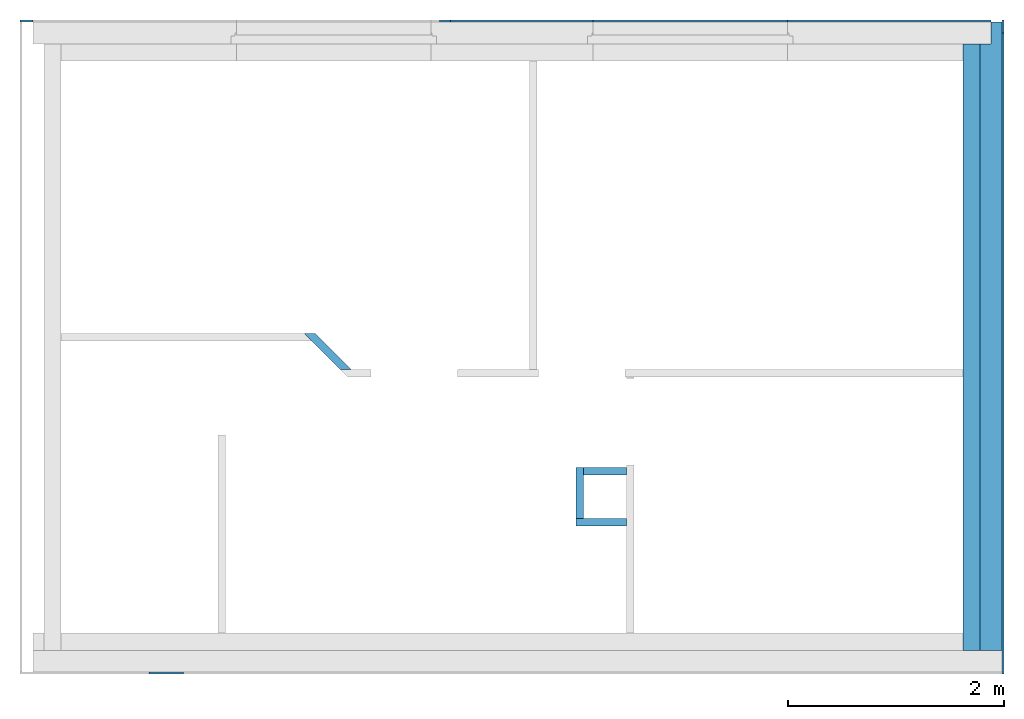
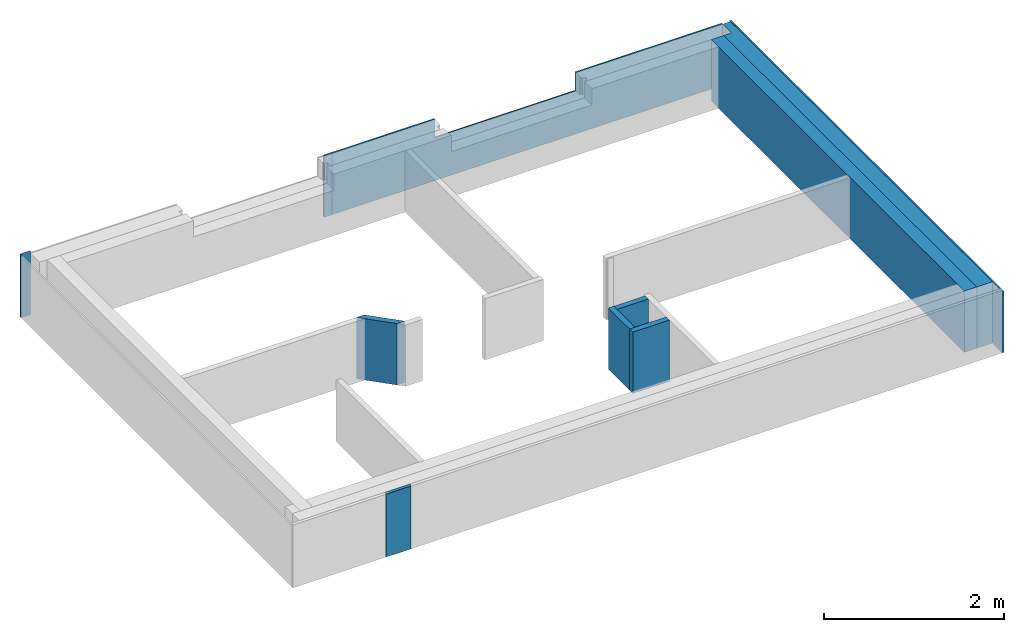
# One storey, part 2 of 2: 12 walls, 6 openings.
"""IFC2X3 building model written with IfcOpenShell, lengths in centimetres."""

from ifc_helpers import new_model, entity, si_unit, converted_unit, derived_unit, direction, frame, frame_2d, origin, place, context, subcontext, project, spatial, polyline, rectangle, outline, extrude, clip, halfspace, bounded_halfspace, faceted_brep, material, layer, layer_set, layer_usage, type_object, element, save


model = new_model("IFC2X3")

# Units and contexts
model_context = context("Model", 3, precision=0.001, world=origin(), true_north=direction((6.12303176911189e-17, 1.0)))
body_context = subcontext(model_context, "Body", "Model", "MODEL_VIEW")
ifc_project = project(units=[si_unit("LENGTHUNIT", "METRE", prefix="CENTI"), si_unit("AREAUNIT", "SQUARE_METRE"), si_unit("VOLUMEUNIT", "CUBIC_METRE"), converted_unit("PLANEANGLEUNIT", "DEGREE", entity("IfcRatioMeasure", 0.0174532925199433), si_unit("PLANEANGLEUNIT", "RADIAN"), dimensions=[0, 0, 0, 0, 0, 0, 0]), si_unit("MASSUNIT", "GRAM", prefix="KILO"), derived_unit("MASSDENSITYUNIT", [(si_unit("MASSUNIT", "GRAM", prefix="KILO"), 1), (si_unit("LENGTHUNIT", "METRE"), -3)]), derived_unit("MOMENTOFINERTIAUNIT", [(si_unit("LENGTHUNIT", "METRE"), 4)]), si_unit("TIMEUNIT", "SECOND"), si_unit("FREQUENCYUNIT", "HERTZ"), si_unit("THERMODYNAMICTEMPERATUREUNIT", "DEGREE_CELSIUS"), derived_unit("THERMALTRANSMITTANCEUNIT", [(si_unit("MASSUNIT", "GRAM", prefix="KILO"), 1), (si_unit("THERMODYNAMICTEMPERATUREUNIT", "KELVIN"), -1), (si_unit("TIMEUNIT", "SECOND"), -3)]), derived_unit("VOLUMETRICFLOWRATEUNIT", [(si_unit("LENGTHUNIT", "METRE"), 3), (si_unit("TIMEUNIT", "SECOND"), -1)]), si_unit("ELECTRICCURRENTUNIT", "AMPERE"), si_unit("ELECTRICVOLTAGEUNIT", "VOLT"), si_unit("POWERUNIT", "WATT"), si_unit("FORCEUNIT", "NEWTON", prefix="KILO"), si_unit("ILLUMINANCEUNIT", "LUX"), si_unit("LUMINOUSFLUXUNIT", "LUMEN"), si_unit("LUMINOUSINTENSITYUNIT", "CANDELA"), derived_unit("USERDEFINED", [(si_unit("MASSUNIT", "GRAM", prefix="KILO"), -1), (si_unit("LENGTHUNIT", "METRE"), -2), (si_unit("TIMEUNIT", "SECOND"), 3), (si_unit("LUMINOUSFLUXUNIT", "LUMEN"), 1)]), derived_unit("LINEARVELOCITYUNIT", [(si_unit("LENGTHUNIT", "METRE"), 1), (si_unit("TIMEUNIT", "SECOND"), -1)]), si_unit("PRESSUREUNIT", "PASCAL"), derived_unit("USERDEFINED", [(si_unit("LENGTHUNIT", "METRE"), -2), (si_unit("MASSUNIT", "GRAM", prefix="KILO"), 1), (si_unit("TIMEUNIT", "SECOND"), -2)]), derived_unit("LINEARFORCEUNIT", [(si_unit("MASSUNIT", "GRAM", prefix="KILO"), 1), (si_unit("LENGTHUNIT", "METRE"), 1), (si_unit("TIMEUNIT", "SECOND"), -2), (si_unit("LENGTHUNIT", "METRE"), -1)]), derived_unit("PLANARFORCEUNIT", [(si_unit("MASSUNIT", "GRAM", prefix="KILO"), 1), (si_unit("LENGTHUNIT", "METRE"), 1), (si_unit("TIMEUNIT", "SECOND"), -2), (si_unit("LENGTHUNIT", "METRE"), -2)])], contexts=[model_context])

# Site, building, storey
site_placement = place(None, origin())
site = spatial("IfcSite", under=ifc_project, at=site_placement, Name="Surface", CompositionType="ELEMENT")
building_placement = place(site_placement, origin())
building = spatial("IfcBuilding", under=site, at=building_placement, CompositionType="ELEMENT")
storey_placement = place(building_placement, frame((0.0, 0.0, 282.0)))
storey = spatial("IfcBuildingStorey", under=building, at=storey_placement, Name="2.82_Arase acrotère", CompositionType="ELEMENT", Elevation=282.0)

# Wall
ifc_material_1 = material(Name="Maçonnerie - Béton")
ifc_layer_1 = layer(ifc_material_1, 20.0)
ifc_layer_set_1 = layer_set([ifc_layer_1], Name="Mur de base:Mur 20")
ifc_layer_usage_1 = layer_usage(ifc_layer_set_1, "AXIS2", "NEGATIVE", 10.0)
wall_type_1 = type_object("IfcWallType", Name="Mur de base:Mur 20", PredefinedType="STANDARD", material=ifc_layer_set_1)
wall_1_placement = place(storey_placement, frame((-892.177260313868, 721.992317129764, 0.0), z_axis=(0.0, 0.0, 1.0), x_axis=(0.0, -1.0, 0.0)))
element("IfcWallStandardCase", 1, at=wall_1_placement, inside=storey, type_object=wall_type_1, material=ifc_layer_usage_1, Name="Mur de base:Mur 20", ObjectType="Mur de base:Mur 20", context=body_context, shape_type="Clipping", body=[
    clip(extrude(outline(polyline([(581.0, -10.0), (581.0, 10.0), (0.0, 10.0), (0.0, 0.0), (20.0, 0.0), (20.0, -10.0), (581.0, -10.0)])), origin(), (0.0, 0.0, 1.0), 83.0), halfspace(frame((0.0, 0.0, -25.0)), True)),
])

# Wall, openings
ifc_material_2 = material(Name="Maçonnerie - Enduit")
ifc_layer_2 = layer(ifc_material_2, 2.0)
ifc_layer_set_2 = layer_set([ifc_layer_2], Name="Mur de base:Enduit 2")
ifc_layer_usage_2 = layer_usage(ifc_layer_set_2, "AXIS2", "POSITIVE", -1.0)
wall_type_2 = type_object("IfcWallType", Name="Mur de base:Enduit 2", PredefinedType="STANDARD", material=ifc_layer_set_2)
wall_2_placement = place(storey_placement, frame((-882.177260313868, 722.992317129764, 0.0), z_axis=(0.0, 0.0, 1.0), x_axis=(-1.0, 0.0, 0.0)))
wall_2 = element("IfcWallStandardCase", 2, at=wall_2_placement, inside=storey, type_object=wall_type_2, material=ifc_layer_usage_2, Name="Mur de base:Enduit 2", ObjectType="Mur de base:Enduit 2", context=body_context, shape_type="Clipping", body=[
    clip(extrude(rectangle(XDim=500.000000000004, YDim=1.99999999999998, at=frame_2d((260.000000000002, 2.48134846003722e-14), x_axis=(-1.0, 0.0))), origin(), (0.0, 0.0, 1.0), 83.0), halfspace(frame((0.0, 0.0, -290.0)), True)),
])
opening_1_placement = place(wall_2_placement, frame((383.0, 61.0, 54.0345797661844)))
element("IfcOpeningElement", 3, at=opening_1_placement, cuts=wall_2, Name="Mur de base:Enduit 2", ObjectType="Opening", context=body_context, shape_type="Brep", body=[
    faceted_brep([(-5.0, -48.0, 6.96542023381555), (-5.0, -50.0, 6.96542023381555), (-5.0, -50.0, 86.9654202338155), (-5.0, -100.0, 86.9654202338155), (-5.0, -100.0, 0.0), (-5.0, -48.0, 5.46542023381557), (-185.0, 0.0, 6.96542023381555), (-185.0, -40.0, 6.96542023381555), (-185.0, -40.0, 86.9654202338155), (-185.0, 0.0, 86.9654202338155), (-5.0, 0.0, 6.96542023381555), (-5.0, -40.0, 6.96542023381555), (0.0, -40.0, 6.96542023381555), (0.0, -47.0, 6.96542023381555), (-4.0, -47.0, 6.96542023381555), (-4.0, -50.0, 6.96542023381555), (-185.0, -48.0, 6.96542023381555), (-185.0, -50.0, 6.96542023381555), (-186.0, -50.0, 6.96542023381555), (-186.0, -47.0, 6.96542023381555), (-190.0, -47.0, 6.96542023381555), (-190.0, -40.0, 6.96542023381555), (-5.0, 0.0, 86.9654202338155), (-185.0, -50.0, 86.9654202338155), (-185.0, -100.0, 86.9654202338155), (-185.0, -100.0, 0.0), (-185.0, -48.0, 5.46542023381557), (0.0, -40.0, 91.9654202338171), (0.0, -47.0, 91.9654202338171), (-190.0, -47.0, 91.9654202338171), (-186.0, -47.0, 87.9654202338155), (-4.0, -47.0, 87.9654202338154), (-4.0, -50.0, 87.9654202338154), (-186.0, -50.0, 87.9654202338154), (-5.0, -40.0, 86.9654202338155), (-190.0, -40.0, 91.9654202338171)], [[[0, 1, 2, 3, 4, 5]], [[6, 7, 8, 9]], [[10, 11, 12, 13, 14, 15, 1, 0, 16, 17, 18, 19, 20, 21, 7, 6]], [[10, 6, 9, 22]], [[3, 2, 23, 24]], [[3, 24, 25, 4]], [[4, 25, 26, 5]], [[5, 26, 16, 0]], [[12, 27, 28, 13]], [[13, 28, 29, 20, 19, 30, 31, 14]], [[14, 31, 32, 15]], [[15, 32, 33, 18, 17, 23, 2, 1]], [[11, 34, 8, 7, 21, 35, 27, 12]], [[27, 35, 29, 28]], [[30, 33, 32, 31]], [[29, 35, 21, 20]], [[19, 18, 33, 30]], [[9, 8, 34, 22]], [[24, 23, 17, 16, 26, 25]], [[22, 34, 11, 10]]]),
])
opening_2_placement = place(wall_2_placement, frame((713.0, 61.0, 54.0345797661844)))
element("IfcOpeningElement", 4, at=opening_2_placement, cuts=wall_2, Name="Mur de base:Enduit 2", ObjectType="Opening", context=body_context, shape_type="Brep", body=[
    faceted_brep([(-5.0, -48.0, 6.96542023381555), (-5.0, -50.0, 6.96542023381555), (-5.0, -50.0, 86.9654202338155), (-5.0, -100.0, 86.9654202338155), (-5.0, -100.0, 0.0), (-5.0, -48.0, 5.46542023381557), (-185.0, 0.0, 6.96542023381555), (-185.0, -40.0, 6.96542023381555), (-185.0, -40.0, 86.9654202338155), (-185.0, 0.0, 86.9654202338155), (-5.0, 0.0, 6.96542023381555), (-5.0, -40.0, 6.96542023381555), (0.0, -40.0, 6.96542023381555), (0.0, -47.0, 6.96542023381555), (-4.0, -47.0, 6.96542023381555), (-4.0, -50.0, 6.96542023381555), (-185.0, -48.0, 6.96542023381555), (-185.0, -50.0, 6.96542023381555), (-186.0, -50.0, 6.96542023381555), (-186.0, -47.0, 6.96542023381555), (-190.0, -47.0, 6.96542023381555), (-190.0, -40.0, 6.96542023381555), (-5.0, 0.0, 86.9654202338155), (-185.0, -50.0, 86.9654202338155), (-185.0, -100.0, 86.9654202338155), (-185.0, -100.0, 0.0), (-185.0, -48.0, 5.46542023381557), (0.0, -40.0, 91.9654202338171), (0.0, -47.0, 91.9654202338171), (-190.0, -47.0, 91.9654202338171), (-186.0, -47.0, 87.9654202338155), (-4.0, -47.0, 87.9654202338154), (-4.0, -50.0, 87.9654202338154), (-186.0, -50.0, 87.9654202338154), (-5.0, -40.0, 86.9654202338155), (-190.0, -40.0, 91.9654202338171)], [[[0, 1, 2, 3, 4, 5]], [[6, 7, 8, 9]], [[10, 11, 12, 13, 14, 15, 1, 0, 16, 17, 18, 19, 20, 21, 7, 6]], [[10, 6, 9, 22]], [[3, 2, 23, 24]], [[3, 24, 25, 4]], [[4, 25, 26, 5]], [[5, 26, 16, 0]], [[12, 27, 28, 13]], [[13, 28, 29, 20, 19, 30, 31, 14]], [[14, 31, 32, 15]], [[15, 32, 33, 18, 17, 23, 2, 1]], [[11, 34, 8, 7, 21, 35, 27, 12]], [[27, 35, 29, 28]], [[30, 33, 32, 31]], [[29, 35, 21, 20]], [[19, 18, 33, 30]], [[9, 8, 34, 22]], [[24, 23, 17, 16, 26, 25]], [[22, 34, 11, 10]]]),
])

# Walls
ifc_layer_usage_3 = layer_usage(ifc_layer_set_2, "AXIS2", "NEGATIVE", 1.0)
wall_3_placement = place(storey_placement, frame((-881.177260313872, 711.992317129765, 0.0), z_axis=(0.0, 0.0, 1.0), x_axis=(0.0, -1.0, 0.0)))
element("IfcWallStandardCase", 5, at=wall_3_placement, inside=storey, type_object=wall_type_2, material=ifc_layer_usage_3, Name="Mur de base:Enduit 2", ObjectType="Mur de base:Enduit 2", context=body_context, shape_type="Clipping", body=[
    clip(extrude(rectangle(XDim=592.999999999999, YDim=1.99999999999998, at=frame_2d((296.5, -7.71605002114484e-15), x_axis=(-1.0, 0.0))), origin(), (0.0, 0.0, 1.0), 83.0), halfspace(frame((0.0, 0.0, -25.0)), True)),
])
ifc_layer_usage_4 = layer_usage(ifc_layer_set_2, "AXIS2", "POSITIVE", -1.0)
wall_4_placement = place(storey_placement, frame((-881.177260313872, 711.992317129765, 0.0), z_axis=(0.0, 0.0, 1.0), x_axis=(0.0, 1.0, 0.0)))
element("IfcWallStandardCase", 6, at=wall_4_placement, inside=storey, type_object=wall_type_2, material=ifc_layer_usage_4, Name="Mur de base:Enduit 2", ObjectType="Mur de base:Enduit 2", context=body_context, shape_type="Clipping", body=[
    clip(clip(extrude(rectangle(XDim=11.9999999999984, YDim=1.99999999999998, at=frame_2d((5.99999999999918, 0.0), x_axis=(-1.0, 0.0))), origin(), (0.0, 0.0, 1.0), 83.0), bounded_halfspace(frame((0.0, -1.0, 0.0), z_axis=(1.0, 0.0, 0.0), x_axis=(0.0, -1.0, 0.0)), True, frame((0.0, -1.0, 0.0), z_axis=(1.0, 0.0, 0.0), x_axis=(0.0, -1.0, 0.0)), polyline([(0.0, 0.0), (-2.0, 0.0), (-2.0, -95.1229889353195), (0.0, -95.1229889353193), (0.0, 0.0)]))), halfspace(origin(), True)),
])

# Wall, openings
ifc_layer_usage_5 = layer_usage(ifc_layer_set_2, "AXIS2", "POSITIVE", -1.0)
wall_5_placement = place(storey_placement, frame((-1392.17726031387, 722.992317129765, 0.0), z_axis=(0.0, 0.0, 1.0), x_axis=(-1.0, 0.0, 0.0)))
wall_5 = element("IfcWallStandardCase", 7, at=wall_5_placement, inside=storey, type_object=wall_type_2, material=ifc_layer_usage_5, Name="Mur de base:Enduit 2", ObjectType="Mur de base:Enduit 2", context=body_context, shape_type="Clipping", body=[
    clip(clip(extrude(rectangle(XDim=10.0000000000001, YDim=1.99999999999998, at=frame_2d((5.00000000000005, 2.70339306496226e-14), x_axis=(-1.0, 0.0))), origin(), (0.0, 0.0, 1.0), 83.0), bounded_halfspace(frame((10.0, -1.0, 285.0), z_axis=(-1.0, 0.0, 0.0), x_axis=(0.0, -1.0, 0.0)), True, frame((10.0, -1.0, 285.0), z_axis=(-1.0, 0.0, 0.0), x_axis=(0.0, -1.0, 0.0)), polyline([(0.0, 0.0), (-1.96639664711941, 0.0), (-1.96639664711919, -10.0244189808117), (-2.0, -10.0267687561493), (-2.0, -285.0), (0.0, -285.0), (0.0, 0.0)]))), halfspace(origin(), True)),
])
opening_3_placement = place(wall_5_placement, frame((203.0, 61.0, 54.0345797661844)))
element("IfcOpeningElement", 8, at=opening_3_placement, cuts=wall_5, Name="Mur de base:Enduit 2", ObjectType="Opening", context=body_context, shape_type="Brep", body=[
    faceted_brep([(-5.0, -48.0, 6.96542023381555), (-5.0, -50.0, 6.96542023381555), (-5.0, -50.0, 86.9654202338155), (-5.0, -100.0, 86.9654202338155), (-5.0, -100.0, 0.0), (-5.0, -48.0, 5.46542023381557), (-185.0, 0.0, 6.96542023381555), (-185.0, -40.0, 6.96542023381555), (-185.0, -40.0, 86.9654202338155), (-185.0, 0.0, 86.9654202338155), (-5.0, 0.0, 6.96542023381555), (-5.0, -40.0, 6.96542023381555), (0.0, -40.0, 6.96542023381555), (0.0, -47.0, 6.96542023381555), (-4.0, -47.0, 6.96542023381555), (-4.0, -50.0, 6.96542023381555), (-185.0, -48.0, 6.96542023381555), (-185.0, -50.0, 6.96542023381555), (-186.0, -50.0, 6.96542023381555), (-186.0, -47.0, 6.96542023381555), (-190.0, -47.0, 6.96542023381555), (-190.0, -40.0, 6.96542023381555), (-5.0, 0.0, 86.9654202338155), (-185.0, -50.0, 86.9654202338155), (-185.0, -100.0, 86.9654202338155), (-185.0, -100.0, 0.0), (-185.0, -48.0, 5.46542023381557), (0.0, -40.0, 91.9654202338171), (0.0, -47.0, 91.9654202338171), (-190.0, -47.0, 91.9654202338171), (-186.0, -47.0, 87.9654202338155), (-4.0, -47.0, 87.9654202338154), (-4.0, -50.0, 87.9654202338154), (-186.0, -50.0, 87.9654202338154), (-5.0, -40.0, 86.9654202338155), (-190.0, -40.0, 91.9654202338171)], [[[0, 1, 2, 3, 4, 5]], [[6, 7, 8, 9]], [[10, 11, 12, 13, 14, 15, 1, 0, 16, 17, 18, 19, 20, 21, 7, 6]], [[10, 6, 9, 22]], [[3, 2, 23, 24]], [[3, 24, 25, 4]], [[4, 25, 26, 5]], [[5, 26, 16, 0]], [[12, 27, 28, 13]], [[13, 28, 29, 20, 19, 30, 31, 14]], [[14, 31, 32, 15]], [[15, 32, 33, 18, 17, 23, 2, 1]], [[11, 34, 8, 7, 21, 35, 27, 12]], [[27, 35, 29, 28]], [[30, 33, 32, 31]], [[29, 35, 21, 20]], [[19, 18, 33, 30]], [[9, 8, 34, 22]], [[24, 23, 17, 16, 26, 25]], [[22, 34, 11, 10]]]),
])
opening_4_placement = place(wall_5_placement, frame((-127.0, 61.0, 54.0345797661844)))
element("IfcOpeningElement", 9, at=opening_4_placement, cuts=wall_5, Name="Mur de base:Enduit 2", ObjectType="Opening", context=body_context, shape_type="Brep", body=[
    faceted_brep([(-5.0, -48.0, 6.96542023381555), (-5.0, -50.0, 6.96542023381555), (-5.0, -50.0, 86.9654202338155), (-5.0, -100.0, 86.9654202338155), (-5.0, -100.0, 0.0), (-5.0, -48.0, 5.46542023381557), (-185.0, 0.0, 6.96542023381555), (-185.0, -40.0, 6.96542023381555), (-185.0, -40.0, 86.9654202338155), (-185.0, 0.0, 86.9654202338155), (-5.0, 0.0, 6.96542023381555), (-5.0, -40.0, 6.96542023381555), (0.0, -40.0, 6.96542023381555), (0.0, -47.0, 6.96542023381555), (-4.0, -47.0, 6.96542023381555), (-4.0, -50.0, 6.96542023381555), (-185.0, -48.0, 6.96542023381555), (-185.0, -50.0, 6.96542023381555), (-186.0, -50.0, 6.96542023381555), (-186.0, -47.0, 6.96542023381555), (-190.0, -47.0, 6.96542023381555), (-190.0, -40.0, 6.96542023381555), (-5.0, 0.0, 86.9654202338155), (-185.0, -50.0, 86.9654202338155), (-185.0, -100.0, 86.9654202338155), (-185.0, -100.0, 0.0), (-185.0, -48.0, 5.46542023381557), (0.0, -40.0, 91.9654202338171), (0.0, -47.0, 91.9654202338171), (-190.0, -47.0, 91.9654202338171), (-186.0, -47.0, 87.9654202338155), (-4.0, -47.0, 87.9654202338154), (-4.0, -50.0, 87.9654202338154), (-186.0, -50.0, 87.9654202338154), (-5.0, -40.0, 86.9654202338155), (-190.0, -40.0, 91.9654202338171)], [[[0, 1, 2, 3, 4, 5]], [[6, 7, 8, 9]], [[10, 11, 12, 13, 14, 15, 1, 0, 16, 17, 18, 19, 20, 21, 7, 6]], [[10, 6, 9, 22]], [[3, 2, 23, 24]], [[3, 24, 25, 4]], [[4, 25, 26, 5]], [[5, 26, 16, 0]], [[12, 27, 28, 13]], [[13, 28, 29, 20, 19, 30, 31, 14]], [[14, 31, 32, 15]], [[15, 32, 33, 18, 17, 23, 2, 1]], [[11, 34, 8, 7, 21, 35, 27, 12]], [[27, 35, 29, 28]], [[30, 33, 32, 31]], [[29, 35, 21, 20]], [[19, 18, 33, 30]], [[9, 8, 34, 22]], [[24, 23, 17, 16, 26, 25]], [[22, 34, 11, 10]]]),
])

ifc_layer_usage_6 = layer_usage(ifc_layer_set_2, "AXIS2", "NEGATIVE", 1.0)
wall_6_placement = place(storey_placement, frame((-1790.17726031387, 722.992317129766, 0.0)))
wall_6 = element("IfcWallStandardCase", 10, at=wall_6_placement, inside=storey, type_object=wall_type_2, material=ifc_layer_usage_6, Name="Mur de base:Enduit 2", ObjectType="Mur de base:Enduit 2", context=body_context, shape_type="Clipping", body=[
    clip(clip(extrude(rectangle(XDim=12.0000000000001, YDim=1.99999999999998, at=frame_2d((6.00000000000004, -2.17048601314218e-14), x_axis=(-1.0, 0.0))), origin(), (0.0, 0.0, 1.0), 86.7319926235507), bounded_halfspace(frame((0.0, 1.0, 85.0537933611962), z_axis=(0.0, 0.642787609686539, 0.766044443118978), x_axis=(-1.0, 0.0, 0.0)), False, frame((0.0, 1.0, 85.0537933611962)), polyline([(0.0, 0.0), (0.0, -2.0), (2.0, -2.0), (12.0, -2.0), (12.0, 0.0), (0.0, 0.0)]))), bounded_halfspace(frame((12.0, -1.0, 86.7319926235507), z_axis=(-1.0, 0.0, 0.0), x_axis=(0.0, 1.0, 0.0)), True, frame((12.0, -1.0, 86.7319926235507), z_axis=(-1.0, 0.0, 0.0), x_axis=(0.0, 1.0, 0.0)), polyline([(0.0, 0.0), (2.0, 1.67819926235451), (2.0, 86.7319926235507), (0.0, 86.7319926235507), (0.0, 0.0)]))),
])
opening_5_placement = place(wall_6_placement, frame((195.0, -61.0, 54.0345797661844)))
element("IfcOpeningElement", 11, at=opening_5_placement, cuts=wall_6, Name="Mur de base:Enduit 2", ObjectType="Opening", context=body_context, shape_type="Brep", body=[
    faceted_brep([(5.0, 48.0, 6.96542023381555), (5.0, 50.0, 6.96542023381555), (5.0, 50.0, 86.9654202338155), (5.0, 100.0, 86.9654202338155), (5.0, 100.0, 0.0), (5.0, 48.0, 5.46542023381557), (185.0, 0.0, 6.96542023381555), (185.0, 40.0, 6.96542023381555), (185.0, 40.0, 86.9654202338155), (185.0, 0.0, 86.9654202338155), (5.0, 0.0, 6.96542023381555), (5.0, 40.0, 6.96542023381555), (0.0, 40.0, 6.96542023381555), (0.0, 47.0, 6.96542023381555), (4.0, 47.0, 6.96542023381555), (4.0, 50.0, 6.96542023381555), (185.0, 48.0, 6.96542023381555), (185.0, 50.0, 6.96542023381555), (186.0, 50.0, 6.96542023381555), (186.0, 47.0, 6.96542023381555), (190.0, 47.0, 6.96542023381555), (190.0, 40.0, 6.96542023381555), (5.0, 0.0, 86.9654202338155), (185.0, 50.0, 86.9654202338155), (185.0, 100.0, 86.9654202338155), (185.0, 100.0, 0.0), (185.0, 48.0, 5.46542023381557), (0.0, 40.0, 91.9654202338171), (0.0, 47.0, 91.9654202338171), (190.0, 47.0, 91.9654202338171), (186.0, 47.0, 87.9654202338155), (4.0, 47.0, 87.9654202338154), (4.0, 50.0, 87.9654202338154), (186.0, 50.0, 87.9654202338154), (5.0, 40.0, 86.9654202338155), (190.0, 40.0, 91.9654202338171)], [[[0, 1, 2, 3, 4, 5]], [[6, 7, 8, 9]], [[10, 11, 12, 13, 14, 15, 1, 0, 16, 17, 18, 19, 20, 21, 7, 6]], [[10, 6, 9, 22]], [[3, 2, 23, 24]], [[3, 24, 25, 4]], [[4, 25, 26, 5]], [[5, 26, 16, 0]], [[12, 27, 28, 13]], [[13, 28, 29, 20, 19, 30, 31, 14]], [[14, 31, 32, 15]], [[15, 32, 33, 18, 17, 23, 2, 1]], [[11, 34, 8, 7, 21, 35, 27, 12]], [[27, 35, 29, 28]], [[30, 33, 32, 31]], [[29, 35, 21, 20]], [[19, 18, 33, 30]], [[9, 8, 34, 22]], [[24, 23, 17, 16, 26, 25]], [[22, 34, 11, 10]]]),
])
opening_6_placement = place(wall_6_placement, frame((525.0, -61.0, 54.0345797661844)))
element("IfcOpeningElement", 12, at=opening_6_placement, cuts=wall_6, Name="Mur de base:Enduit 2", ObjectType="Opening", context=body_context, shape_type="Brep", body=[
    faceted_brep([(5.0, 48.0, 6.96542023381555), (5.0, 50.0, 6.96542023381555), (5.0, 50.0, 86.9654202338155), (5.0, 100.0, 86.9654202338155), (5.0, 100.0, 0.0), (5.0, 48.0, 5.46542023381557), (185.0, 0.0, 6.96542023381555), (185.0, 40.0, 6.96542023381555), (185.0, 40.0, 86.9654202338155), (185.0, 0.0, 86.9654202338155), (5.0, 0.0, 6.96542023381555), (5.0, 40.0, 6.96542023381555), (0.0, 40.0, 6.96542023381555), (0.0, 47.0, 6.96542023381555), (4.0, 47.0, 6.96542023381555), (4.0, 50.0, 6.96542023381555), (185.0, 48.0, 6.96542023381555), (185.0, 50.0, 6.96542023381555), (186.0, 50.0, 6.96542023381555), (186.0, 47.0, 6.96542023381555), (190.0, 47.0, 6.96542023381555), (190.0, 40.0, 6.96542023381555), (5.0, 0.0, 86.9654202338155), (185.0, 50.0, 86.9654202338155), (185.0, 100.0, 86.9654202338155), (185.0, 100.0, 0.0), (185.0, 48.0, 5.46542023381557), (0.0, 40.0, 91.9654202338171), (0.0, 47.0, 91.9654202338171), (190.0, 47.0, 91.9654202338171), (186.0, 47.0, 87.9654202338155), (4.0, 47.0, 87.9654202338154), (4.0, 50.0, 87.9654202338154), (186.0, 50.0, 87.9654202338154), (5.0, 40.0, 86.9654202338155), (190.0, 40.0, 91.9654202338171)], [[[0, 1, 2, 3, 4, 5]], [[6, 7, 8, 9]], [[10, 11, 12, 13, 14, 15, 1, 0, 16, 17, 18, 19, 20, 21, 7, 6]], [[10, 6, 9, 22]], [[3, 2, 23, 24]], [[3, 24, 25, 4]], [[4, 25, 26, 5]], [[5, 26, 16, 0]], [[12, 27, 28, 13]], [[13, 28, 29, 20, 19, 30, 31, 14]], [[14, 31, 32, 15]], [[15, 32, 33, 18, 17, 23, 2, 1]], [[11, 34, 8, 7, 21, 35, 27, 12]], [[27, 35, 29, 28]], [[30, 33, 32, 31]], [[29, 35, 21, 20]], [[19, 18, 33, 30]], [[9, 8, 34, 22]], [[24, 23, 17, 16, 26, 25]], [[22, 34, 11, 10]]]),
])

# Walls
ifc_layer_usage_7 = layer_usage(ifc_layer_set_2, "AXIS2", "POSITIVE", -1.0)
wall_7_placement = place(storey_placement, frame((-1671.06456194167, 119.992317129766, 0.0)))
element("IfcWallStandardCase", 13, at=wall_7_placement, inside=storey, type_object=wall_type_2, material=ifc_layer_usage_7, Name="Mur de base:Enduit 2", ObjectType="Mur de base:Enduit 2", context=body_context, shape_type="Clipping", body=[
    clip(extrude(rectangle(XDim=32.0000000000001, YDim=2.00000000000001, at=frame_2d((16.0, -4.44089209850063e-16), x_axis=(-1.0, 0.0))), origin(), (0.0, 0.0, 1.0), 86.731992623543), bounded_halfspace(frame((0.0, -1.0, 85.0537933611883), z_axis=(0.0, -0.642787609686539, 0.766044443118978), x_axis=(1.0, 0.0, 0.0)), False, frame((0.0, -1.0, 85.0537933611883)), polyline([(0.0, 0.0), (32.0, 0.0), (32.0, 2.0), (0.0, 2.0), (0.0, 0.0)]))),
])
ifc_material_3 = material(Name="Isolant rigide")
ifc_layer_3 = layer(ifc_material_3, 16.0)
ifc_layer_set_3 = layer_set([ifc_layer_3], Name="Mur de base:Doublage 16")
ifc_layer_usage_8 = layer_usage(ifc_layer_set_3, "AXIS2", "POSITIVE", -8.0)
wall_type_3 = type_object("IfcWallType", Name="Mur de base:Doublage 16", PredefinedType="STANDARD", material=ifc_layer_set_3)
wall_8_placement = place(storey_placement, frame((-910.177260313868, 701.99231712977, 0.0), z_axis=(0.0, 0.0, 1.0), x_axis=(0.0, -1.0, 0.0)))
element("IfcWallStandardCase", 14, at=wall_8_placement, inside=storey, type_object=wall_type_3, material=ifc_layer_usage_8, Name="Mur de base:Doublage 16", ObjectType="Mur de base:Doublage 16", context=body_context, shape_type="Clipping", body=[
    clip(extrude(rectangle(XDim=561.0, YDim=16.0, at=frame_2d((280.5, 0.0), x_axis=(-1.0, 0.0))), origin(), (0.0, 0.0, 1.0), 83.0), halfspace(frame((0.0, 0.0, -19.0)), True)),
])
ifc_material_4 = material(Name="Mur par défaut")
ifc_layer_4 = layer(ifc_material_4, 7.0)
ifc_layer_set_4 = layer_set([ifc_layer_4], Name="Mur de base:Cloison 7cm")
ifc_layer_usage_9 = layer_usage(ifc_layer_set_4, "AXIS2", "POSITIVE", -3.5)
wall_type_4 = type_object("IfcWallType", Name="Mur de base:Cloison 7cm", PredefinedType="STANDARD", material=ifc_layer_set_4)
wall_9_placement = place(storey_placement, frame((-1486.75263911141, 398.517443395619, 0.0), z_axis=(0.0, 0.0, 1.0), x_axis=(-0.707106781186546, 0.707106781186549, 0.0)))
element("IfcWallStandardCase", 15, at=wall_9_placement, inside=storey, type_object=wall_type_4, material=ifc_layer_usage_9, Name="Mur de base:Cloison 7cm", ObjectType="Mur de base:Cloison 7cm", context=body_context, shape_type="Clipping", body=[
    clip(extrude(outline(polyline([(46.6690475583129, -3.5), (53.6690475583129, 3.50000000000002), (43.7695526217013, 3.50000000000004), (7.0, 3.50000000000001), (0.0, -3.49999999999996), (46.6690475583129, -3.5)])), origin(), (0.0, 0.0, 1.0), 83.0), halfspace(frame((0.0, 0.0, -19.0)), True)),
])
ifc_layer_usage_10 = layer_usage(ifc_layer_set_4, "AXIS2", "NEGATIVE", 3.5)
wall_10_placement = place(storey_placement, frame((-1229.17726031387, 259.49231712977, 0.0), z_axis=(0.0, 0.0, 1.0), x_axis=(-1.0, 0.0, 0.0)))
element("IfcWallStandardCase", 16, at=wall_10_placement, inside=storey, type_object=wall_type_4, material=ifc_layer_usage_10, Name="Mur de base:Cloison 7cm", ObjectType="Mur de base:Cloison 7cm", context=body_context, shape_type="Clipping", body=[
    clip(extrude(rectangle(XDim=46.9999999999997, YDim=7.00000000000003, at=frame_2d((23.4999999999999, 0.0), x_axis=(-1.0, 0.0))), origin(), (0.0, 0.0, 1.0), 83.0), halfspace(frame((0.0, 0.0, -19.0)), True)),
])
ifc_layer_usage_11 = layer_usage(ifc_layer_set_4, "AXIS2", "NEGATIVE", 3.5)
wall_11_placement = place(storey_placement, frame((-1272.67726031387, 262.99231712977, 0.0), z_axis=(0.0, 0.0, 1.0), x_axis=(0.0, 1.0, 0.0)))
element("IfcWallStandardCase", 17, at=wall_11_placement, inside=storey, type_object=wall_type_4, material=ifc_layer_usage_11, Name="Mur de base:Cloison 7cm", ObjectType="Mur de base:Cloison 7cm", context=body_context, shape_type="Clipping", body=[
    clip(extrude(rectangle(XDim=46.9999999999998, YDim=7.00000000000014, at=frame_2d((23.4999999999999, 0.0), x_axis=(-1.0, 0.0))), origin(), (0.0, 0.0, 1.0), 83.0), halfspace(frame((0.0, 0.0, -19.0)), True)),
])
ifc_layer_usage_12 = layer_usage(ifc_layer_set_4, "AXIS2", "NEGATIVE", 3.5)
wall_12_placement = place(storey_placement, frame((-1269.17726031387, 306.49231712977, 0.0)))
element("IfcWallStandardCase", 18, at=wall_12_placement, inside=storey, type_object=wall_type_4, material=ifc_layer_usage_12, Name="Mur de base:Cloison 7cm", ObjectType="Mur de base:Cloison 7cm", context=body_context, shape_type="Clipping", body=[
    clip(extrude(rectangle(XDim=39.9999999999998, YDim=7.00000000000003, at=frame_2d((19.9999999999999, -1.19904086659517e-14), x_axis=(-1.0, 0.0))), origin(), (0.0, 0.0, 1.0), 83.0), halfspace(frame((0.0, 0.0, -19.0)), True)),
])

save(model, "model.ifc")
